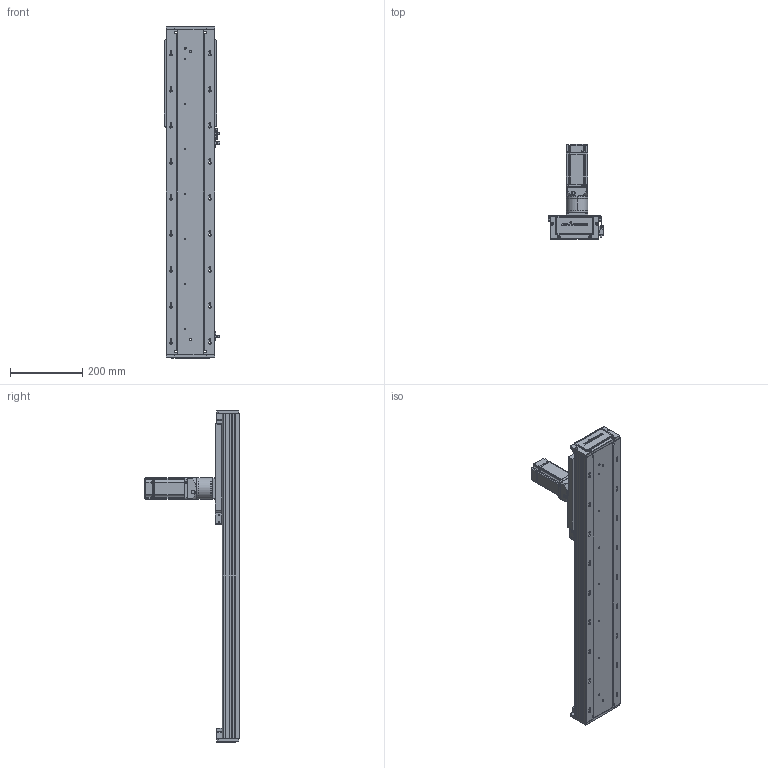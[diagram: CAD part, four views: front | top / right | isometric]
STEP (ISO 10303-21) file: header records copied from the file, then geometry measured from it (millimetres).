
FILE_DESCRIPTION (( 'STEP AP203' ), '1' );
FILE_NAME ('RY140-C-250-UK.SLDASM_550.step', '2022-03-12T01:58:21', ( '' ), ( '' ), 'SwSTEP 2.0', 'SolidWorks 2016', '' );
FILE_SCHEMA (( 'CONFIG_CONTROL_DESIGN' ));
Length unit declared in the file: millimetre
Products named in the file (12): 絳寢賑輸EGH15; 140蚥薯蝶輸; RY140-C-250-UK.SLDASM_550; RY140-喘沭裔啣; RY140-喘謫萇儂覃誹啣; RY140-絳寢EGH15-300-MK_550; RY140-喘沭賑輸; 15; 覜茼ん672; 60ZDF珨撰俋倛芞T1 200W M4; RY120外置感应片(140共用）; RY140-300齿条模组型材底座_550
Assembly tree (21 placements, depth 2):
  RY140-C-250-UK.SLDASM_550
    RY140-300齿条模组型材底座_550
    RY140-絳寢EGH15-300-MK_550  x2
    絳寢賑輸EGH15  x6
    RY140-喘沭裔啣  x2
    覜茼ん672  x3
    RY140-喘沭賑輸
    RY120外置感应片(140共用）
    RY140-喘謫萇儂覃誹啣
    140蚥薯蝶輸  x2
    60ZDF珨撰俋倛芞T1 200W M4
    15
Bounding box: 153.7 x 263.5 x 922 mm (x, y, z)
Volume: 3957551.9 mm3; surface area: 990658.3 mm2
Topology: 21 solids, 21 shells, 3182 faces, 8390 edges, 5440 vertices
Faces by surface type: plane 1626, cylinder 1302, cone 208, bspline 46
Entity records: 69017 total; most frequent: CARTESIAN_POINT 14627, DIRECTION 11077, ORIENTED_EDGE 10950, EDGE_CURVE 5475, AXIS2_PLACEMENT_3D 3895, VERTEX_POINT 3581, LINE 3287, VECTOR 3287
